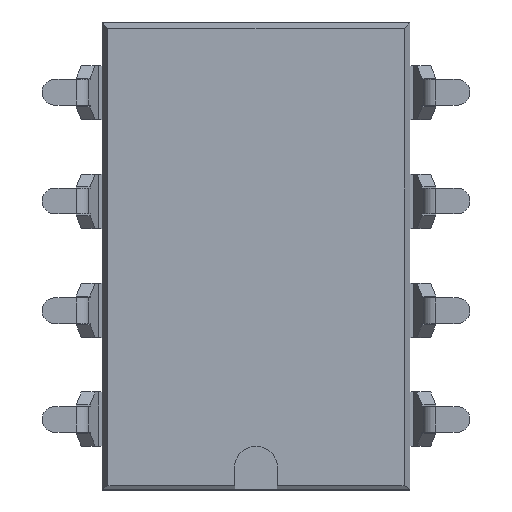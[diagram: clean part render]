
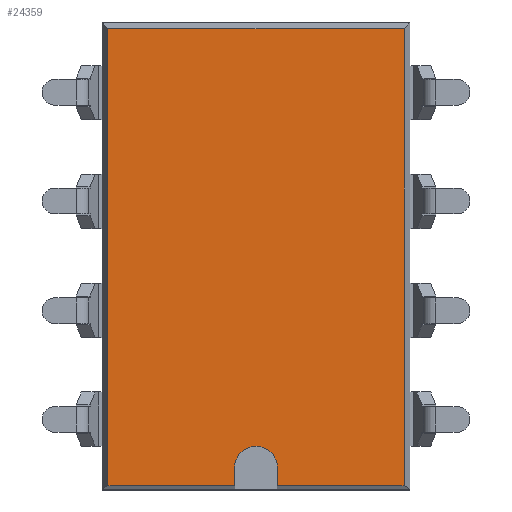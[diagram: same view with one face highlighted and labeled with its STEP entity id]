
A CAD part, top view. The second image highlights one B-rep face of the part: STEP entity #24359.
In plain terms, the highlighted planar face has unit normal (0, 0, 1).
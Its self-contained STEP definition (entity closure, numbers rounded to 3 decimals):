
#8357=DIRECTION('',(0.,1.,0.));
#8358=VECTOR('',#8357,10.68);
#8359=CARTESIAN_POINT('',(7.06,0.08,1.55));
#8360=LINE('',#8359,#8358);
#8361=DIRECTION('',(1.,0.,0.));
#8362=VECTOR('',#8361,2.96);
#8363=CARTESIAN_POINT('',(4.1,0.08,1.55));
#8364=LINE('',#8363,#8362);
#8365=DIRECTION('',(0.,1.,0.));
#8366=VECTOR('',#8365,0.424);
#8367=CARTESIAN_POINT('',(4.1,0.08,1.55));
#8368=LINE('',#8367,#8366);
#8369=CARTESIAN_POINT('',(3.6,0.5,1.55));
#8370=DIRECTION('',(0.,0.,1.));
#8371=DIRECTION('',(1.,0.009,0.));
#8372=AXIS2_PLACEMENT_3D('',#8369,#8370,#8371);
#8374=DIRECTION('',(0.,1.,0.));
#8375=VECTOR('',#8374,0.424);
#8376=CARTESIAN_POINT('',(3.1,0.08,1.55));
#8377=LINE('',#8376,#8375);
#8378=DIRECTION('',(1.,0.,0.));
#8379=VECTOR('',#8378,2.96);
#8380=CARTESIAN_POINT('',(0.14,0.08,1.55));
#8381=LINE('',#8380,#8379);
#8382=DIRECTION('',(0.,-1.,0.));
#8383=VECTOR('',#8382,10.68);
#8384=CARTESIAN_POINT('',(0.14,10.76,1.55));
#8385=LINE('',#8384,#8383);
#8386=DIRECTION('',(-1.,0.,0.));
#8387=VECTOR('',#8386,6.92);
#8388=CARTESIAN_POINT('',(7.06,10.76,1.55));
#8389=LINE('',#8388,#8387);
#9847=CARTESIAN_POINT('',(4.1,0.08,1.55));
#9848=CARTESIAN_POINT('',(4.1,0.504,1.55));
#9849=VERTEX_POINT('',#9847);
#9850=VERTEX_POINT('',#9848);
#9851=CARTESIAN_POINT('',(3.1,0.504,1.55));
#9852=VERTEX_POINT('',#9851);
#9853=CARTESIAN_POINT('',(3.1,0.08,1.55));
#9854=VERTEX_POINT('',#9853);
#9957=CARTESIAN_POINT('',(7.06,0.08,1.55));
#9958=VERTEX_POINT('',#9957);
#9959=CARTESIAN_POINT('',(7.06,10.76,1.55));
#9960=VERTEX_POINT('',#9959);
#9963=CARTESIAN_POINT('',(0.14,10.76,1.55));
#9964=VERTEX_POINT('',#9963);
#9965=CARTESIAN_POINT('',(0.14,0.08,1.55));
#9967=VERTEX_POINT('',#9965);
#24341=CARTESIAN_POINT('',(0.,0.,1.55));
#24342=DIRECTION('',(0.,0.,1.));
#24343=DIRECTION('',(1.,0.,0.));
#24344=AXIS2_PLACEMENT_3D('',#24341,#24342,#24343);
#24345=PLANE('',#24344);
#24346=ORIENTED_EDGE('',*,*,#24276,.F.);
#24347=ORIENTED_EDGE('',*,*,#24292,.F.);
#24349=ORIENTED_EDGE('',*,*,#24348,.T.);
#24351=ORIENTED_EDGE('',*,*,#24350,.T.);
#24353=ORIENTED_EDGE('',*,*,#24352,.F.);
#24354=ORIENTED_EDGE('',*,*,#24320,.F.);
#24355=ORIENTED_EDGE('',*,*,#24336,.F.);
#24356=ORIENTED_EDGE('',*,*,#24261,.F.);
#24357=EDGE_LOOP('',(#24346,#24347,#24349,#24351,#24353,#24354,#24355,#24356));
#24358=FACE_OUTER_BOUND('',#24357,.F.);
#24359=ADVANCED_FACE('',(#24358),#24345,.T.);
#8373=CIRCLE('',#8372,0.5);
#24261=EDGE_CURVE('',#9960,#9964,#8389,.T.);
#24276=EDGE_CURVE('',#9958,#9960,#8360,.T.);
#24292=EDGE_CURVE('',#9849,#9958,#8364,.T.);
#24320=EDGE_CURVE('',#9967,#9854,#8381,.T.);
#24336=EDGE_CURVE('',#9964,#9967,#8385,.T.);
#24348=EDGE_CURVE('',#9849,#9850,#8368,.T.);
#24350=EDGE_CURVE('',#9850,#9852,#8373,.T.);
#24352=EDGE_CURVE('',#9854,#9852,#8377,.T.);
